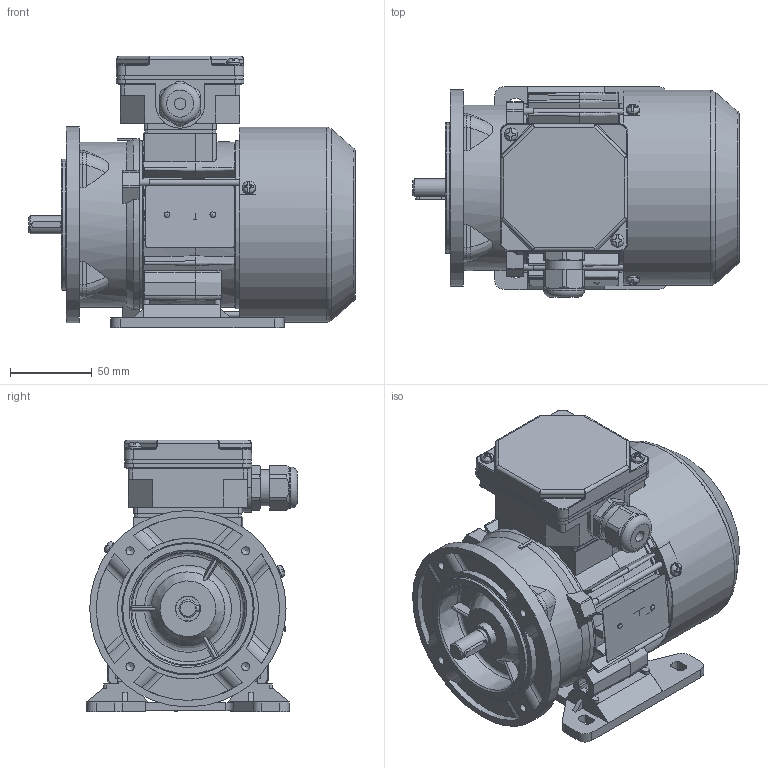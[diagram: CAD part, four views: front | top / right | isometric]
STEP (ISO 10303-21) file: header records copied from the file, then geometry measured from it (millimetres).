
FILE_DESCRIPTION(/* description */ ('Unknown'),/* implementation_level */ '2;1');
FILE_NAME(/* name */ '2SIEL63-2A1',/* time_stamp */ '2021-04-12T11:41:28+02:00',/* author */ ('Unknown'),/* organization */ ('Unknown'),/* preprocessor_version */ 'ST-DEVELOPER v16.7',/* originating_system */ 'Solid Edge',/* authorisation */ 'Unknown');
FILE_SCHEMA (('AUTOMOTIVE_DESIGN {1 0 10303 214 3 1 1}'));
Length unit declared in the file: millimetre
Products named in the file (1): 2SIEL63-2A1
Bounding box: 199.49 x 129 x 166 mm (x, y, z)
Volume: 567297.4 mm3; surface area: 335371.4 mm2
Topology: 2 solids, 2 shells, 1963 faces, 5581 edges, 3638 vertices
Faces by surface type: plane 1009, cylinder 576, torus 127, bspline 116, cone 114, sphere 21
Full cylindrical faces by diameter (mm): 2.4 x2, 3.3 x3, 3.7 x7, 4 x5, 4.5 x3, 4.8 x2, 5 x6, 5.8 x4, 7 x4, 8 x6, 10.599 x1, 10.999 x1, 12.899 x1, 13.099 x1, 14.998 x2, 15.4 x2, 18.998 x2, 19.498 x1, 19.698 x1, 19.998 x1, 20.098 x1, 21.518 x4, 22.3 x1, 25 x1, 28 x2, 28.48 x4, 31 x2, 32 x1, 35 x3, 71.993 x1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
Entity records: 79880 total; most frequent: CARTESIAN_POINT 17129, ORIENTED_EDGE 10494, DIRECTION 9734, EDGE_CURVE 5247, AXIS2_PLACEMENT_3D 3537, VERTEX_POINT 3511, LINE 2660, VECTOR 2660
